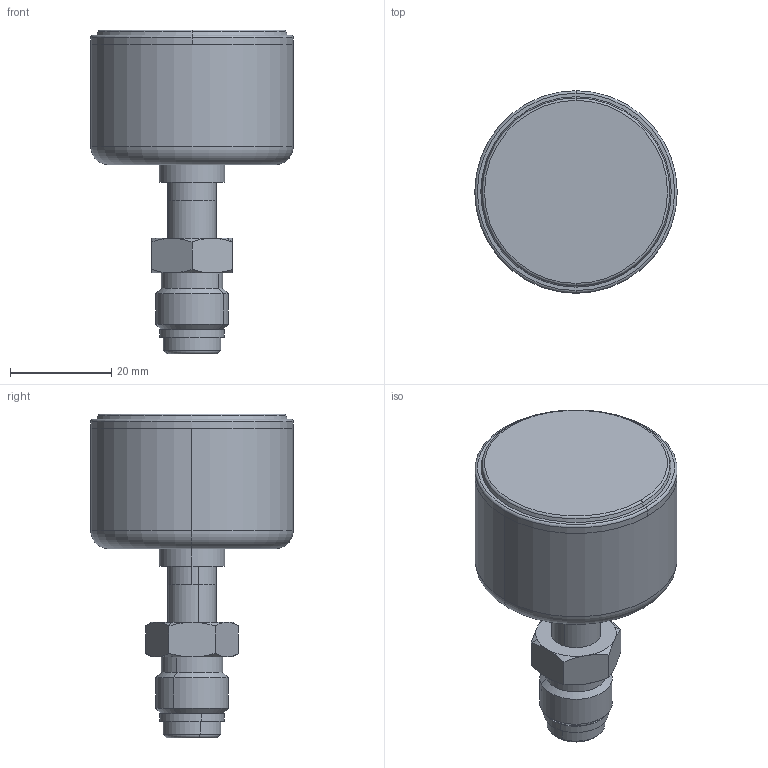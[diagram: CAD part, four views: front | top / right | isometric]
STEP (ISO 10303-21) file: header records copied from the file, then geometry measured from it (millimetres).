
FILE_DESCRIPTION (( 'STEP AP203' ), '1' );
FILE_NAME ('C15-SM.STEP', '2025-03-04T19:33:50', ( '' ), ( '' ), 'SwSTEP 2.0', 'SolidWorks 2023', '' );
FILE_SCHEMA (( 'CONFIG_CONTROL_DESIGN' ));
Length unit declared in the file: millimetre
Products named in the file (1): C15-SM
Bounding box: 40 x 40 x 64 mm (x, y, z)
Volume: 10256.2 mm3; surface area: 15513.8 mm2
Topology: 5 solids, 5 shells, 92 faces, 186 edges, 112 vertices
Faces by surface type: cylinder 34, plane 24, cone 20, torus 12, bspline 2
Entity records: 2537 total; most frequent: CARTESIAN_POINT 507, DIRECTION 458, ORIENTED_EDGE 372, AXIS2_PLACEMENT_3D 205, EDGE_CURVE 186, CIRCLE 114, VERTEX_POINT 112, EDGE_LOOP 108
